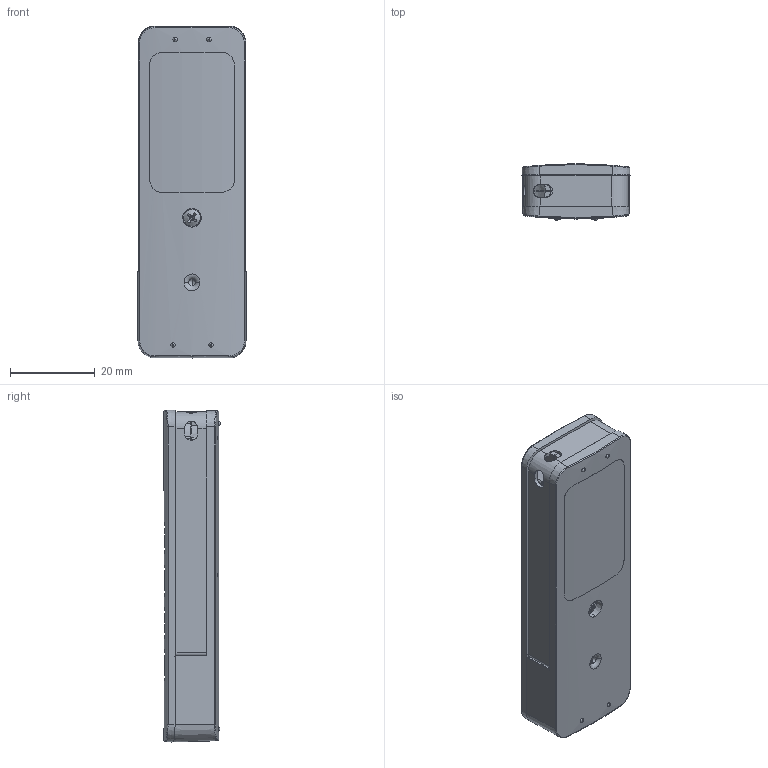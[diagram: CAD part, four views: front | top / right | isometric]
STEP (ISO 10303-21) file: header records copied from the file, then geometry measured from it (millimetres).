
FILE_DESCRIPTION (( 'STEP AP214' ), '1' );
FILE_NAME ('401XV000_PEARL.STEP', '2017-12-06T07:26:16', ( '' ), ( '' ), 'SwSTEP 2.0', 'SolidWorks 2017', '' );
FILE_SCHEMA (( 'AUTOMOTIVE_DESIGN' ));
Length unit declared in the file: millimetre
Products named in the file (1): 401XV000_PEARL
Bounding box: 25.46 x 13.22 x 78.25 mm (x, y, z)
Surface area: 30088.7 mm2 (no closed solid volume)
Topology: 0 solids, 1004 shells, 2749 faces, 9298 edges, 7635 vertices
Faces by surface type: plane 1366, cylinder 747, bspline 587, cone 47, torus 2
Entity records: 202699 total; most frequent: CARTESIAN_POINT 98471, ORIENTED_EDGE 13906, DIRECTION 12361, EDGE_CURVE 9288, VERTEX_POINT 7635, LINE 5483, VECTOR 5483, AXIS2_PLACEMENT_3D 3439
